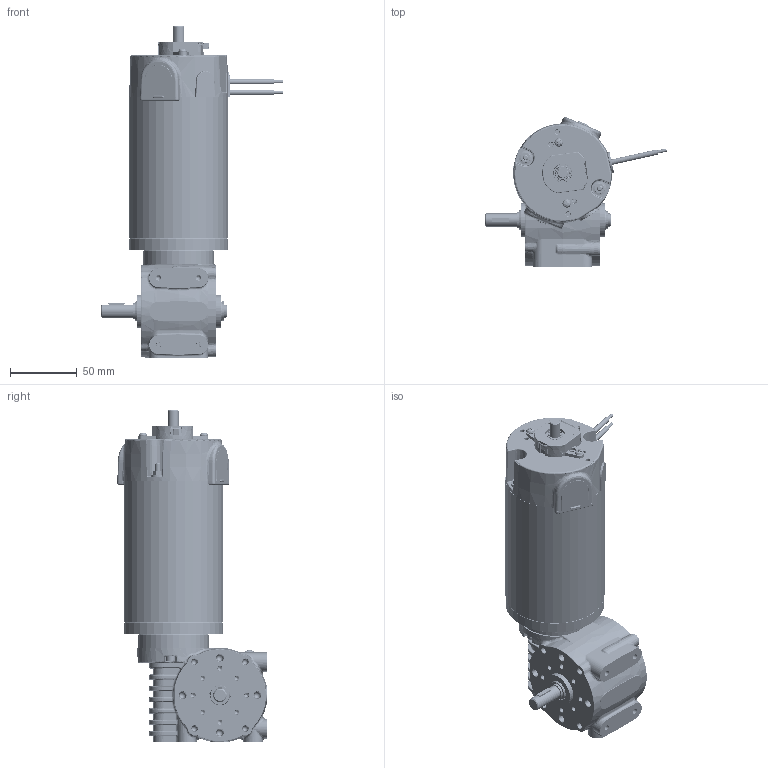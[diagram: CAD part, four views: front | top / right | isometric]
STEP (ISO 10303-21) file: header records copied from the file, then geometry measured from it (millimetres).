
FILE_DESCRIPTION (( 'STEP AP214' ), '1' );
FILE_NAME ('BRx70-60-GB80 - Diff Encoder - Shaft.STEP', '2025-09-10T14:02:58', ( '' ), ( '' ), 'SwSTEP 2.0', 'SolidWorks 2023', '' );
FILE_SCHEMA (( 'AUTOMOTIVE_DESIGN' ));
Length unit declared in the file: millimetre
Products named in the file (1): BRx70-60-GB80 - Diff Encoder - Shaft
Bounding box: 136.02 x 111.85 x 248.5 mm (x, y, z)
Volume: 471584.3 mm3; surface area: 227897.1 mm2
Topology: 58 solids, 58 shells, 10718 faces, 28190 edges, 18162 vertices
Faces by surface type: plane 5509, cylinder 3212, cone 770, bspline 672, torus 483, sphere 72
Entity records: 486804 total; most frequent: CARTESIAN_POINT 106237, ORIENTED_EDGE 56042, DIRECTION 53005, EDGE_CURVE 28021, VERTEX_POINT 18162, AXIS2_PLACEMENT_3D 17959, LINE 17087, VECTOR 17087
